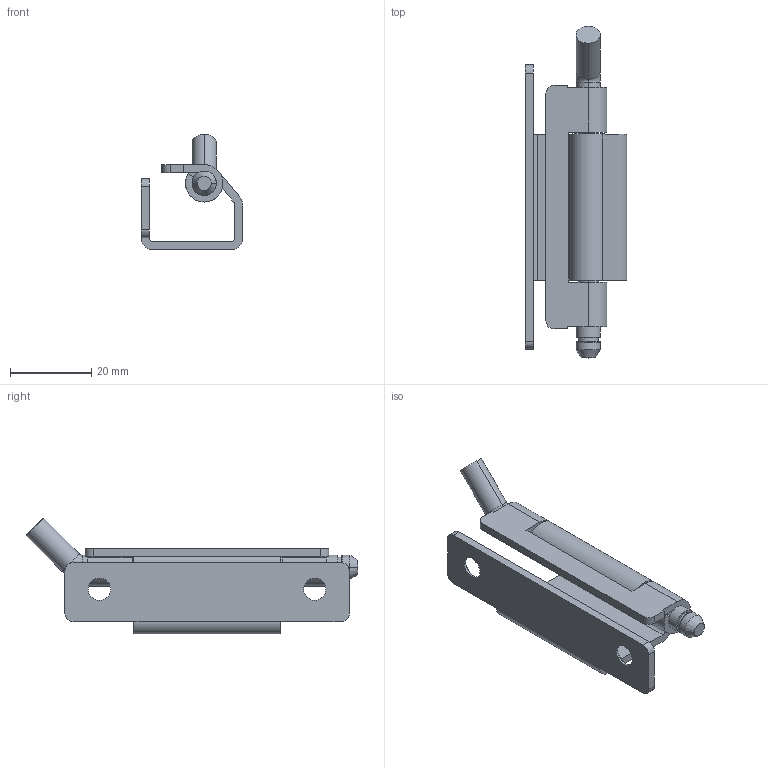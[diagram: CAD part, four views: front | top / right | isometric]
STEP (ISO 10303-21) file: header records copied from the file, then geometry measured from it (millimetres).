
FILE_DESCRIPTION(/* description */ (''),/* implementation_level */ '2;1');
FILE_NAME(/* name */ 'JL275-1',/* time_stamp */ '2024-10-08T10:44:06+08:00',/* author */ (''),/* organization */ (''),/* preprocessor_version */ 'ST-DEVELOPER v19.2',/* originating_system */ 'Rhino 8.5',/* authorisation */ '');
FILE_SCHEMA (('CONFIG_CONTROL_DESIGN'));
Length unit declared in the file: millimetre
Products named in the file (1): Document
Bounding box: 25 x 81.73 x 28.53 mm (x, y, z)
Volume: 9837.2 mm3; surface area: 10605.4 mm2
Topology: 3 solids, 3 shells, 82 faces, 198 edges, 126 vertices
Faces by surface type: plane 36, cylinder 34, bspline 12
Entity records: 2728 total; most frequent: CARTESIAN_POINT 957, ORIENTED_EDGE 396, DIRECTION 235, EDGE_CURVE 198, AXIS2_PLACEMENT_3D 151, VERTEX_POINT 126, EDGE_LOOP 90, B_SPLINE_CURVE_WITH_KNOTS 82
